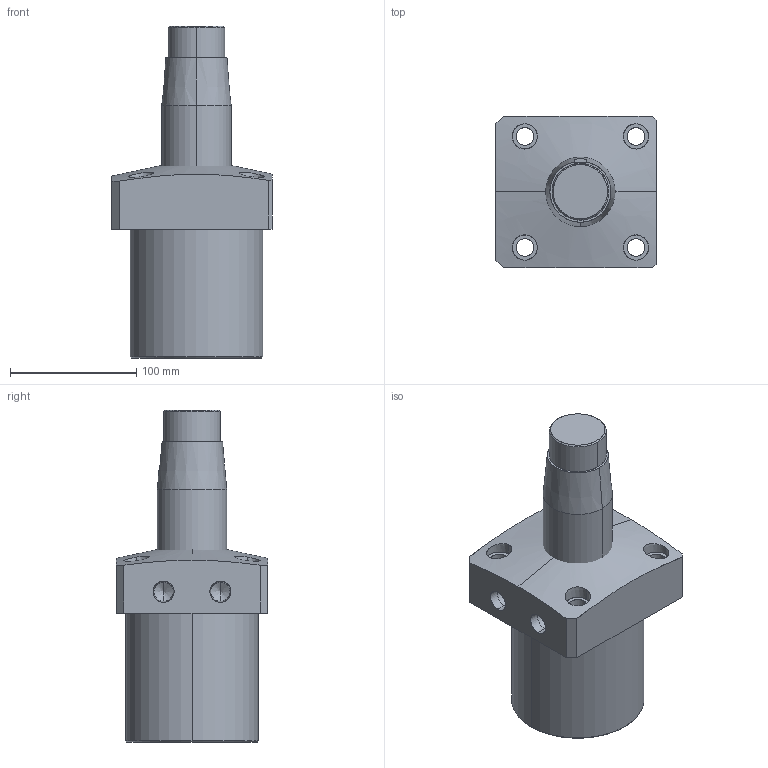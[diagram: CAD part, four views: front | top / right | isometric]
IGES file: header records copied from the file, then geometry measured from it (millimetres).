
Start section: SolidWorks IGES file using analytic representation for surfaces
Global section: file name: E:\ALL SSVT IGS MODEL\ALL-SWING-IGS\SWING-105\SC02-105-LH-TOP-TAPER.IGS; native system: SolidWorks 2019; preprocessor: SolidWorks 2019; author: SSVT; date: 210823.142525; units: millimetre
Bounding box: 127 x 120 x 263 mm (x, y, z)
Surface area: 141176.3 mm2 (no closed solid volume)
Topology: 0 solids, 0 shells, 73 faces, 1783 edges, 1779 vertices
Faces by surface type: revolution 48, bspline 25
